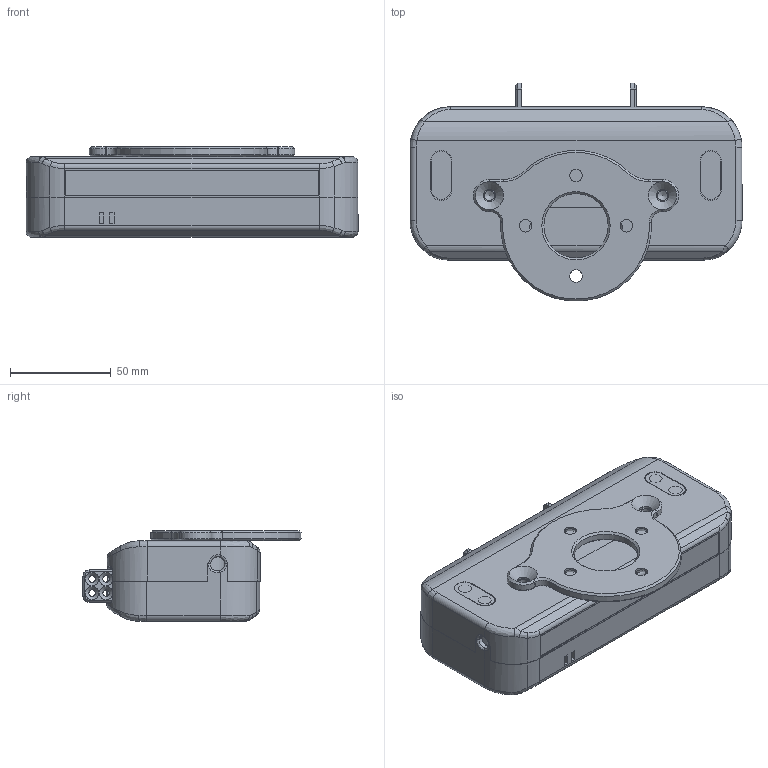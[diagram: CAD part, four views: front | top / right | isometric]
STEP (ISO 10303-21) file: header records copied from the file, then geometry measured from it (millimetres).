
FILE_DESCRIPTION (( 'STEP AP203' ), '1' );
FILE_NAME ('BIO Gripper(AB1001)_without fingers.STEP', '2021-12-11T07:18:35', ( '' ), ( '' ), 'SwSTEP 2.0', 'SolidWorks 2016', '' );
FILE_SCHEMA (( 'CONFIG_CONTROL_DESIGN' ));
Length unit declared in the file: millimetre
Products named in the file (1): BIO Gripper(AB1001)_without fingers
Bounding box: 165 x 108.36 x 45 mm (x, y, z)
Volume: 379254.2 mm3; surface area: 117875.4 mm2
Topology: 8 solids, 8 shells, 576 faces, 1415 edges, 853 vertices
Faces by surface type: cylinder 184, plane 183, bspline 137, cone 72
Full cylindrical faces by diameter (mm): 3 x4, 3.2 x14, 5 x2, 6.2 x6, 8 x4, 32 x1
Entity records: 22924 total; most frequent: CARTESIAN_POINT 10312, ORIENTED_EDGE 2664, DIRECTION 2409, EDGE_CURVE 1332, AXIS2_PLACEMENT_3D 887, VERTEX_POINT 843, EDGE_LOOP 703, LINE 635
